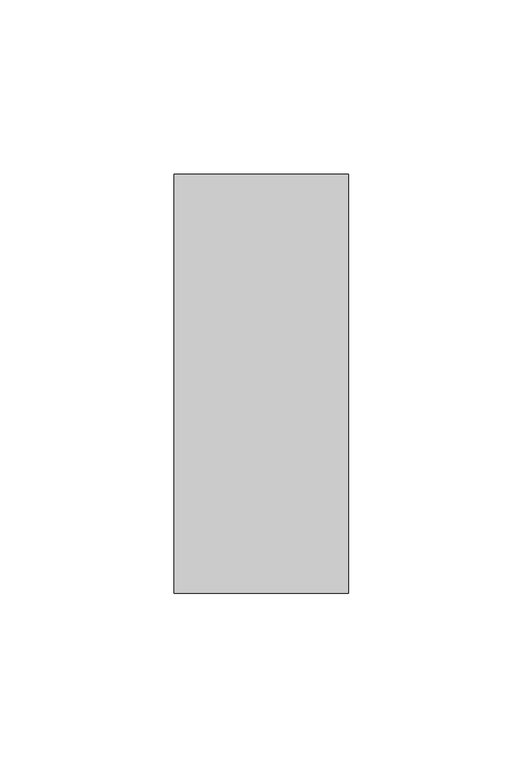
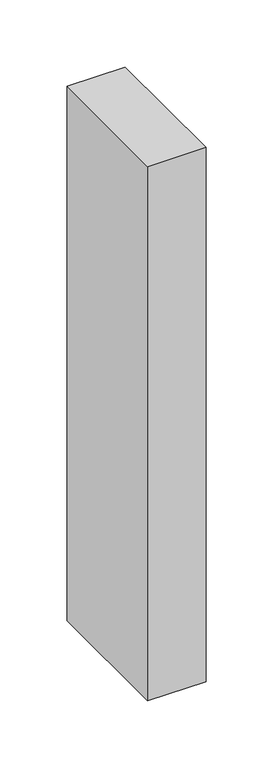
"""IFC4 building model written with IfcOpenShell, lengths in millimetres: member geometry, Прямоугольный импост : 50х120 мм."""

from ifc_helpers import new_model, si_unit, frame, origin, place, context, project, spatial, polyline, outline, extrude, source, transform, mapped, element, save


def member_90e372af(model_context):
    return source(origin(), model_context, "Body", "SweptSolid", [
        extrude(outline(polyline([(25.0, 60.0), (25.0, -60.0), (-25.0, -60.0), (-25.0, 60.0), (25.0, 60.0)])), frame((0.0, 0.0, -485.0175397), z_axis=(0.0, 0.0, 1.0), x_axis=(1.0, 0.0, 0.0)), (0.0, 0.0, 1.0), 485.0175397),
    ])


if __name__ == "__main__":
    model = new_model("IFC4")
    model_context = context("Model", 3, world=origin())
    ifc_project = project(units=[si_unit("LENGTHUNIT", "METRE", prefix="MILLI")], contexts=[model_context])
    site = spatial("IfcSite", under=ifc_project)
    building = spatial("IfcBuilding", under=site)
    placement = place(None, origin())
    member_shape = member_90e372af(model_context)
    element("IfcMember", 1, ObjectType="Прямоугольный импост : 50х120 мм", at=placement, inside=building, context=model_context, shape_type="MappedRepresentation", body=[
        mapped(member_shape, transform((0.0, 0.0, 0.0), x_axis=(1.0, 0.0, 0.0), y_axis=(0.0, 1.0, 0.0), z_axis=(0.0, 0.0, 1.0))),
    ])
    save(model, "model.ifc")
